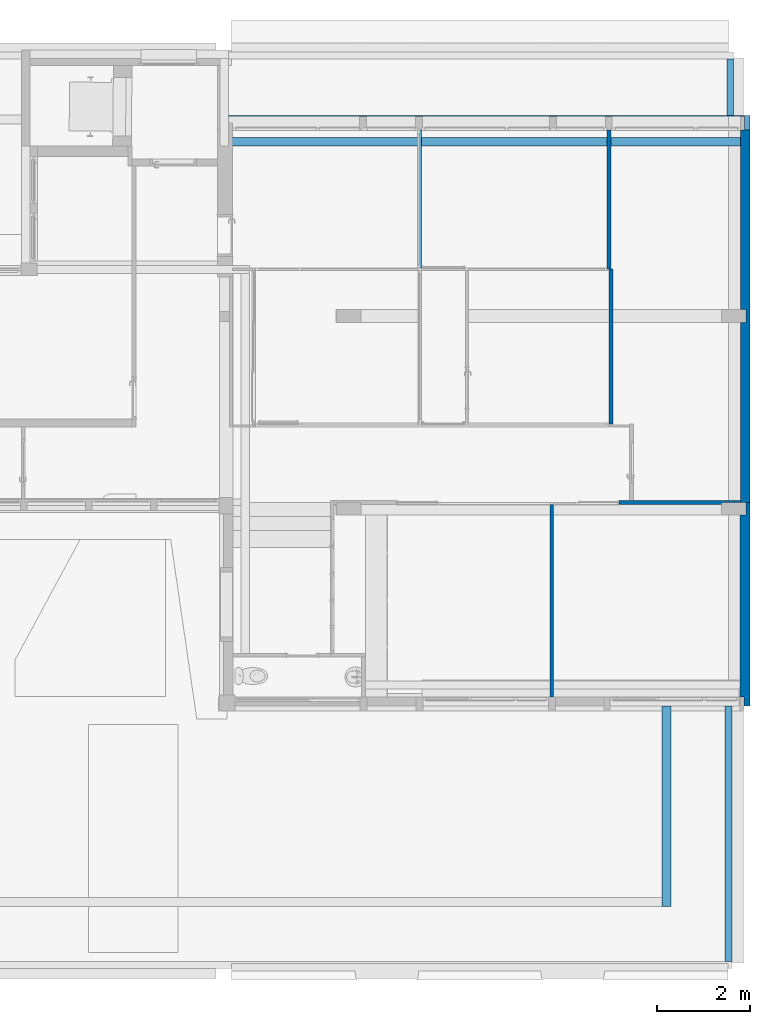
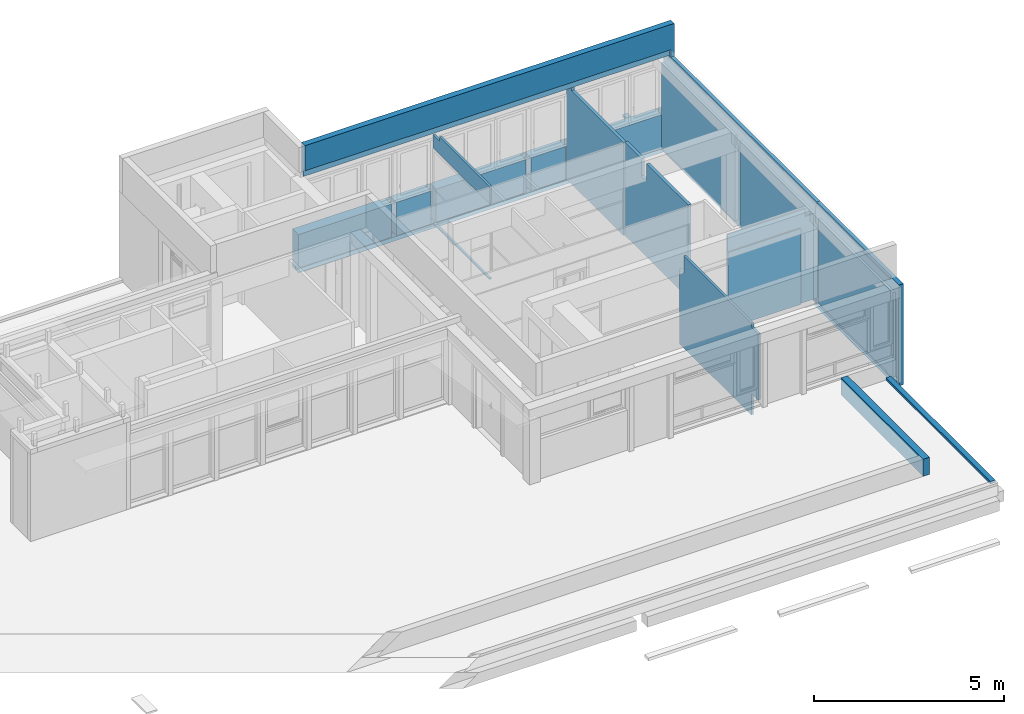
# One storey, part 36 of 49: 12 walls, 2 openings.
"""IFC4 building model written with IfcOpenShell, lengths in metres."""

from ifc_helpers import new_model, entity, si_unit, converted_unit, derived_unit, direction, frame, origin, place, context, subcontext, project, spatial, indexed_curve, outline, extrude, polygons, material, layer, layer_set, type_object, element, save


model = new_model("IFC4")

# Units and contexts
model_context = context("Model", 3, precision=1e-05, world=origin(), true_north=direction((6.12303176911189e-17, 1.0)))
body_context = subcontext(model_context, "Body", "Model", "MODEL_VIEW")
ifc_project = project(units=[si_unit("LENGTHUNIT", "METRE"), si_unit("AREAUNIT", "SQUARE_METRE"), si_unit("VOLUMEUNIT", "CUBIC_METRE"), converted_unit("PLANEANGLEUNIT", "DEGREE", entity("IfcRatioMeasure", 0.0174532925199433), si_unit("PLANEANGLEUNIT", "RADIAN"), dimensions=[0, 0, 0, 0, 0, 0, 0]), si_unit("MASSUNIT", "GRAM", prefix="KILO"), derived_unit("MASSDENSITYUNIT", [(si_unit("MASSUNIT", "GRAM", prefix="KILO"), 1), (si_unit("LENGTHUNIT", "METRE"), -3)]), derived_unit("MOMENTOFINERTIAUNIT", [(si_unit("LENGTHUNIT", "METRE"), 4)]), si_unit("TIMEUNIT", "SECOND"), si_unit("FREQUENCYUNIT", "HERTZ"), si_unit("THERMODYNAMICTEMPERATUREUNIT", "DEGREE_CELSIUS"), derived_unit("THERMALTRANSMITTANCEUNIT", [(si_unit("MASSUNIT", "GRAM", prefix="KILO"), 1), (si_unit("THERMODYNAMICTEMPERATUREUNIT", "KELVIN"), -1), (si_unit("TIMEUNIT", "SECOND"), -3)]), derived_unit("VOLUMETRICFLOWRATEUNIT", [(si_unit("LENGTHUNIT", "METRE"), 3), (si_unit("TIMEUNIT", "SECOND"), -1)]), si_unit("ELECTRICCURRENTUNIT", "AMPERE"), si_unit("ELECTRICVOLTAGEUNIT", "VOLT"), si_unit("POWERUNIT", "WATT"), si_unit("FORCEUNIT", "NEWTON", prefix="KILO"), si_unit("ILLUMINANCEUNIT", "LUX"), si_unit("LUMINOUSFLUXUNIT", "LUMEN"), si_unit("LUMINOUSINTENSITYUNIT", "CANDELA"), derived_unit("USERDEFINED", [(si_unit("MASSUNIT", "GRAM", prefix="KILO"), -1), (si_unit("LENGTHUNIT", "METRE"), -2), (si_unit("TIMEUNIT", "SECOND"), 3), (si_unit("LUMINOUSFLUXUNIT", "LUMEN"), 1)]), derived_unit("LINEARVELOCITYUNIT", [(si_unit("LENGTHUNIT", "METRE"), 1), (si_unit("TIMEUNIT", "SECOND"), -1)]), si_unit("PRESSUREUNIT", "PASCAL"), derived_unit("USERDEFINED", [(si_unit("LENGTHUNIT", "METRE"), -2), (si_unit("MASSUNIT", "GRAM", prefix="KILO"), 1), (si_unit("TIMEUNIT", "SECOND"), -2)]), derived_unit("LINEARFORCEUNIT", [(si_unit("MASSUNIT", "GRAM", prefix="KILO"), 1), (si_unit("LENGTHUNIT", "METRE"), 1), (si_unit("TIMEUNIT", "SECOND"), -2), (si_unit("LENGTHUNIT", "METRE"), -1)]), derived_unit("PLANARFORCEUNIT", [(si_unit("MASSUNIT", "GRAM", prefix="KILO"), 1), (si_unit("LENGTHUNIT", "METRE"), 1), (si_unit("TIMEUNIT", "SECOND"), -2), (si_unit("LENGTHUNIT", "METRE"), -2)])], contexts=[model_context])

# Site, building, storey
site_placement = place(None, origin())
site = spatial("IfcSite", under=ifc_project, at=site_placement, Name="Default", CompositionType="ELEMENT")
building_placement = place(site_placement, origin())
building = spatial("IfcBuilding", under=site, at=building_placement, Name="HOTEL CONSULAIRE BOULOGNE SUR MER", CompositionType="ELEMENT")
storey_placement = place(building_placement, frame((0.0, 0.0, 6.81974152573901)))
storey = spatial("IfcBuildingStorey", under=building, at=storey_placement, Name="Niveau 2", CompositionType="ELEMENT", Elevation=6.81974152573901)

# Wall, opening
ifc_material = material(Name="Mur par défaut", Category="Divers")
ifc_layer_1 = layer(ifc_material, 0.07, Name="Mur par défaut", Category="Divers")
ifc_layer_set_1 = layer_set([ifc_layer_1], Name="Mur de base:Générique - Int. 70 mm")
wall_type_1 = type_object("IfcWallType", Name="Mur de base:Générique - Int. 70 mm", PredefinedType="NOTDEFINED", material=ifc_layer_set_1)
wall_1_placement = place(storey_placement, frame((18.5326869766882, -23.8271007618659, 0.0), z_axis=(0.0, 0.0, 1.0), x_axis=(0.0, 1.0, 0.0)))
wall_1 = element("IfcWall", 1, at=wall_1_placement, inside=storey, type_object=wall_type_1, material=ifc_layer_set_1, Name="Mur de base:Générique - Int. 70 mm", ObjectType="Mur de base:Générique - Int. 70 mm", PredefinedType="NOTDEFINED", context=body_context, shape_type="Tessellation", body=[
    polygons([(4.13394496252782, -0.0349999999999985, 2.402), (3.91119095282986, -0.0349999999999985, 2.402), (3.91119095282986, -0.0349999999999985, 2.95700000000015), (0.344902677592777, -0.0349999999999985, 2.95700000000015), (0.344902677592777, -0.0349999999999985, 2.822), (0.0, -0.0349999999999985, 2.822), (0.0, -0.0349999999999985, 0.693999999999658), (0.36, -0.0349999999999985, 0.693999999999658), (0.36, -0.0349999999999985, 0.0), (4.13394496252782, -0.0349999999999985, 0.0), (3.91119095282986, 0.0350000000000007, 2.402), (4.13394496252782, 0.0350000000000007, 2.402), (4.13394496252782, 0.0350000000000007, 0.0), (0.36, 0.0350000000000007, 0.0), (0.36, 0.0350000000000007, 0.693999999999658), (0.0, 0.0350000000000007, 0.693999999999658), (0.0, 0.0350000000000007, 2.822), (0.344902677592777, 0.0350000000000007, 2.822), (0.344902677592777, 0.0350000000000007, 2.95700000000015), (3.91119095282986, 0.0350000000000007, 2.95700000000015)], [[[5, 6, 7, 8, 9, 10, 1, 2, 3, 4]], [[13, 14, 15, 16, 17, 18, 19, 20, 11, 12]], [[1, 12, 11, 2]], [[20, 19, 4, 3]], [[18, 17, 6, 5]], [[2, 11, 20, 3]], [[1, 10, 13, 12]], [[7, 6, 17, 16]], [[19, 18, 5, 4]], [[14, 9, 8, 15]], [[8, 7, 16, 15]], [[14, 13, 10, 9]]], closed=True),
])
opening_1_placement = place(wall_1_placement, origin())
element("IfcOpeningElement", 2, at=opening_1_placement, cuts=wall_1, Name="Mur de base:Générique - Int. 70 mm", ObjectType="Opening", PredefinedType="OPENING", context=body_context, shape_type="SweptSolid", body=[
    extrude(outline(indexed_curve([(-0.364499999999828, -0.0899999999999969), (0.364499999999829, -0.0899999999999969), (0.364499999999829, 0.0900000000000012), (-0.364499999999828, 0.0900000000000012), (-0.364499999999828, -0.0899999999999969)], self_intersect=False)), frame((0.0899999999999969, 0.0350000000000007, 0.32949999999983), z_axis=(0.0, -1.0, 0.0), x_axis=(0.0, 0.0, -1.0)), (0.0, 0.0, 1.0), 0.07),
])

ifc_layer_2 = layer(ifc_material, 0.07, Name="Mur par défaut", Category="Divers")
ifc_layer_set_2 = layer_set([ifc_layer_2], Name="Mur de base:Int. Plâtre 70 mm")
wall_type_2 = type_object("IfcWallType", Name="Mur de base:Int. Plâtre 70 mm", PredefinedType="NOTDEFINED", material=ifc_layer_set_2)
wall_2_placement = place(storey_placement, frame((15.696075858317, -14.6014237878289, -0.0350000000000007), z_axis=(0.0, 0.0, 1.0), x_axis=(0.0, 1.0, 0.0)))
wall_2 = element("IfcWall", 3, at=wall_2_placement, inside=storey, type_object=wall_type_2, material=ifc_layer_set_2, Name="Mur de base:Int. Plâtre 70 mm", ObjectType="Mur de base:Int. Plâtre 70 mm", PredefinedType="NOTDEFINED", context=body_context, shape_type="Tessellation", body=[
    polygons([(0.0, -0.0349999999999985, 1.08286712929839e-15), (2.96500000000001, -0.0349999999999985, 1.08286712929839e-15), (2.96500000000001, -0.0349999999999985, 0.0350000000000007), (0.0, -0.0349999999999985, 0.0350000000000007), (2.96500000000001, 0.0350000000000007, 1.08286712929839e-15), (0.0, 0.0350000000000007, 1.08286712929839e-15), (0.0, 0.0350000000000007, 0.0350000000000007), (2.96500000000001, 0.0350000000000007, 0.0350000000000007)], [[[4, 1, 2, 3]], [[8, 5, 6, 7]], [[2, 1, 6, 5]], [[7, 6, 1, 4]], [[3, 8, 7, 4]], [[3, 2, 5, 8]]], closed=True),
    polygons([(2.96500000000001, 0.0350000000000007, 2.437), (0.0, 0.0350000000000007, 2.437), (0.0, 0.0350000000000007, 2.99200000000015), (2.63022570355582, 0.0350000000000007, 2.99200000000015), (2.63022570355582, 0.0350000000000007, 2.857), (2.96500000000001, 0.0350000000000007, 2.857), (2.96500000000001, -0.0349999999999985, 2.437), (2.96500000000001, -0.0349999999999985, 2.857), (0.0, -0.0349999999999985, 2.437), (2.63022570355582, -0.0349999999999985, 2.857), (2.63022570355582, -0.0349999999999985, 2.99200000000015), (0.0, -0.0349999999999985, 2.99200000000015)], [[[5, 6, 1, 2, 3, 4]], [[7, 1, 6, 8]], [[11, 10, 5, 4]], [[12, 9, 7, 8, 10, 11]], [[2, 9, 12, 3]], [[9, 2, 1, 7]], [[4, 3, 12, 11]], [[6, 5, 10, 8]]], closed=True),
])
opening_2_placement = place(wall_2_placement, frame((0.0, 0.1874, 0.035000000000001)))
element("IfcOpeningElement", 4, at=opening_2_placement, cuts=wall_2, Name="Mur de base:Int. Plâtre 70 mm", ObjectType="Opening", PredefinedType="OPENING", context=body_context, shape_type="SweptSolid", body=[
    extrude(outline(indexed_curve([(-1.201, -1.48250000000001), (1.201, -1.48250000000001), (1.201, 1.48250000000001), (-1.201, 1.48250000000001), (-1.201, -1.48250000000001)], self_intersect=False)), frame((1.48250000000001, -0.374799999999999, 1.201), z_axis=(0.0, 1.0, 0.0), x_axis=(0.0, 0.0, 1.0)), (0.0, 0.0, 1.0), 0.374799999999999),
])

# Walls
ifc_layer_3 = layer(ifc_material, 0.18, Name="Mur par défaut", Category="Divers")
ifc_layer_set_3 = layer_set([ifc_layer_3], Name="Mur de base:Générique - Int.180")
wall_type_3 = type_object("IfcWallType", Name="Mur de base:Générique - Int.180", PredefinedType="NOTDEFINED", material=ifc_layer_set_3)
wall_3_placement = place(storey_placement, frame((11.5809585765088, -11.8811980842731, 3.052)))
element("IfcWall", 5, at=wall_3_placement, inside=storey, type_object=wall_type_3, material=ifc_layer_set_3, Name="Mur de base:Générique - Int.180", ObjectType="Mur de base:Générique - Int.180", PredefinedType="NOTDEFINED", context=body_context, shape_type="Tessellation", body=[
    polygons([(11.2169773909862, -0.0900000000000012, 0.0), (11.2169773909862, -0.0900000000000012, 1.04540452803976), (2.05724346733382e-16, -0.0900000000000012, 1.04540452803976), (2.05724346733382e-16, -0.0900000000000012, 0.23500000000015), (11.1169773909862, -0.0900000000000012, 0.23500000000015), (11.1169773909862, -0.0900000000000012, 0.0), (11.2169773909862, 0.089999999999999, 0.0), (-2.85831539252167e-16, 0.089999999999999, 0.0), (-2.85831539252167e-16, 0.089999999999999, 1.04540452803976), (11.2169773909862, 0.089999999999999, 1.04540452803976), (11.1169773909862, -2.16573425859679e-15, 0.0), (11.077679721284, -2.16573425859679e-15, 0.0), (-4.00535962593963e-17, 0.0, 0.0), (-4.00535962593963e-17, 0.0, 0.100000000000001), (-4.00535962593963e-17, 0.0, 0.23500000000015), (11.1169773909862, -2.16573425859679e-15, 0.23500000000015)], [[[3, 4, 5, 6, 1, 2]], [[12, 11, 16, 15, 14, 13]], [[10, 7, 8, 9]], [[11, 12, 13, 8, 7, 1, 6]], [[16, 5, 4, 15]], [[2, 1, 7, 10]], [[3, 2, 10, 9]], [[15, 4, 3, 9, 8, 13, 14]], [[11, 6, 5, 16]]], closed=True),
])
ifc_layer_4 = layer(ifc_material, 0.09, Name="Mur par défaut", Category="Divers")
ifc_layer_set_4 = layer_set([ifc_layer_4], Name="Mur de base:Générique - Int. 90")
wall_type_4 = type_object("IfcWallType", Name="Mur de base:Générique - Int. 90", PredefinedType="NOTDEFINED", material=ifc_layer_set_4)
wall_4_placement = place(storey_placement, frame((19.767821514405, -11.6364237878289, -0.0349999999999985), z_axis=(0.0, 0.0, 1.0), x_axis=(0.0, -1.0, 0.0)))
element("IfcWall", 6, at=wall_4_placement, inside=storey, type_object=wall_type_4, material=ifc_layer_set_4, Name="Mur de base:Générique - Int. 90", ObjectType="Mur de base:Générique - Int. 90", PredefinedType="NOTDEFINED", context=body_context, shape_type="Tessellation", body=[
    polygons([(0.0, -0.0450000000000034, -1.08286712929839e-15), (2.965, -0.0450000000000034, -1.08286712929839e-15), (2.99, -0.0450000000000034, -1.08286712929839e-15), (2.99, -0.0450000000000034, 0.0349999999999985), (2.99, -0.0450000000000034, 2.437), (2.99, -0.0450000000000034, 2.99200000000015), (2.965, -0.0450000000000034, 2.99200000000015), (0.244774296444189, -0.045000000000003, 2.99200000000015), (0.244774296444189, -0.045000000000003, 3.087), (0.0, -0.0450000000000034, 3.087), (2.99, 0.0449999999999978, -1.08286712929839e-15), (0.0, 0.0449999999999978, -1.08286712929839e-15), (0.0, 0.0449999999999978, 3.087), (0.244774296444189, 0.0449999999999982, 3.087), (0.244774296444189, 0.0449999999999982, 2.99200000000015), (2.99, 0.0449999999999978, 2.99200000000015), (2.99, -0.00574565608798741, -1.08286712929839e-15), (2.99, -0.00574565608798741, 2.99200000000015)], [[[1, 2, 3, 4, 5, 6, 7, 8, 9, 10]], [[11, 12, 13, 14, 15, 16]], [[2, 1, 12, 11, 17, 3]], [[10, 9, 14, 13]], [[7, 6, 18, 16, 15, 8]], [[12, 1, 10, 13]], [[4, 3, 17, 11, 16, 18, 6, 5]], [[9, 8, 15, 14]]], closed=True),
])
wall_5_placement = place(storey_placement, frame((19.807075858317, -17.9553078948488, -0.0349999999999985), z_axis=(0.0, 0.0, 1.0), x_axis=(0.0, 1.0, 0.0)))
element("IfcWall", 7, at=wall_5_placement, inside=storey, type_object=wall_type_4, material=ifc_layer_set_4, Name="Mur de base:Générique - Int. 90", ObjectType="Mur de base:Générique - Int. 90", PredefinedType="NOTDEFINED", context=body_context, shape_type="Tessellation", body=[
    polygons([(2.45739808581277, -0.0450000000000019, 2.99200000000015), (3.32888410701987, -0.0450000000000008, 2.99200000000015), (3.32888410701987, 0.0450000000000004, 2.99200000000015), (3.30388410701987, 0.0450000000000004, 2.99200000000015), (2.45739808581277, 0.0449999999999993, 2.99200000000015), (0.0, -0.0450000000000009, -1.08286712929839e-15), (3.32888410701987, -0.0450000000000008, -1.08286712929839e-15), (2.45739808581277, -0.0450000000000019, 2.437), (2.18739808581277, -0.0450000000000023, 2.437), (2.18739808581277, -0.0450000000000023, 2.99200000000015), (0.0, -0.0450000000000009, 2.99200000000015), (3.32888410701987, 0.0450000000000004, -1.08286712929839e-15), (3.30388410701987, 0.0450000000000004, -1.08286712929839e-15), (0.0, 0.0450000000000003, -1.08286712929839e-15), (0.0, 0.0450000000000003, 2.99200000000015), (2.18739808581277, 0.0449999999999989, 2.99200000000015), (2.18739808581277, 0.0449999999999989, 2.437), (2.45739808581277, 0.0449999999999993, 2.437), (3.32888410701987, -0.00574565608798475, -1.08286712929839e-15)], [[[4, 5, 1, 2, 3]], [[8, 18, 17, 9]], [[16, 15, 11, 10]], [[6, 7, 2, 1, 8, 9, 10, 11]], [[18, 5, 4, 3, 12, 13, 14, 15, 16, 17]], [[19, 7, 6, 14, 13, 12]], [[6, 11, 15, 14]], [[1, 5, 18, 8]], [[9, 17, 16, 10]], [[2, 7, 19, 12, 3]]], closed=True),
])
ifc_layer_5 = layer(ifc_material, 0.32, Name="Mur par défaut", Category="Divers")
ifc_layer_set_5 = layer_set([ifc_layer_5], Name="Mur de base:Générique - Ext.320 mm")
wall_type_5 = type_object("IfcWallType", Name="Mur de base:Générique - Ext.320 mm", PredefinedType="NOTDEFINED", material=ifc_layer_set_5)
wall_6_placement = place(storey_placement, frame((11.5809585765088, -11.4764237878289, -0.187999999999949)))
element("IfcWall", 8, at=wall_6_placement, inside=storey, type_object=wall_type_5, material=ifc_layer_set_5, Name="Mur de base:Générique - Ext.320 mm", ObjectType="Mur de base:Générique - Ext.320 mm", PredefinedType="NOTDEFINED", context=body_context, shape_type="Tessellation", body=[
    polygons([(2.8184756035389, -0.16, 1.22371275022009), (0.0899999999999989, -0.16, 1.22371275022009), (-1.72323157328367e-16, -0.16, 1.22371275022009), (-1.72323157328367e-16, -0.16, 0.152999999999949), (2.8184756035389, -0.16, 0.152999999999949), (8.2544756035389, -0.16, 1.22371275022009), (8.2544756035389, -0.16, 0.152999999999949), (11.0169773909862, -0.16, 0.152999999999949), (11.0169773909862, -0.16, 1.22371275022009), (6.9044756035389, -0.16, 0.152999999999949), (6.9044756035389, -0.16, 1.22371275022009), (4.1684756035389, -0.16, 1.22371275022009), (4.1684756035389, -0.16, 0.152999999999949), (7.0544756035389, 0.0, 0.152999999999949), (8.10447560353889, 0.0, 0.152999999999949), (8.10447560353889, -0.16, 0.152999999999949), (7.0544756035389, -0.16, 0.152999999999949), (4.1684756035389, 0.0, 0.152999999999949), (6.9044756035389, 0.0, 0.152999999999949), (8.25447560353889, 0.0, 0.152999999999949), (11.0169773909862, 0.0, 0.152999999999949), (2.9684756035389, 0.0, 0.152999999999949), (4.0184756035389, 0.0, 0.152999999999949), (4.0184756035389, -0.16, 0.152999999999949), (2.9684756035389, -0.16, 0.152999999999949), (4.0184756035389, -0.16, 1.22371275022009), (2.9684756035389, -0.16, 1.22371275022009), (8.10447560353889, -0.16, 1.22371275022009), (7.0544756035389, -0.16, 1.22371275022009), (-1.72323157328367e-16, -0.16, 0.0), (11.2169773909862, -0.16, 0.0), (11.2169773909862, -0.16, 0.00299999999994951), (11.2169773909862, -0.16, 1.22371275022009), (11.1049773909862, -0.16, 1.22371275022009), (11.1049773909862, -0.16, 0.152999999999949), (11.0869773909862, -0.16, 0.152999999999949), (11.0869773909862, -0.16, 0.00299999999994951), (-1.72323157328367e-16, -0.16, 0.00299999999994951), (11.2169773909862, 0.16, 0.0), (-1.18005982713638e-15, 0.16, 0.0), (-1.18005982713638e-15, 0.16, 1.22371275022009), (11.2169773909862, 0.16, 1.22371275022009), (-6.76191492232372e-16, 0.0, 1.22371275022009), (2.8184756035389, 0.139999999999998, 1.22371275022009), (2.9684756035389, 0.139999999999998, 1.22371275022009), (4.0184756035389, 0.139999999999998, 1.22371275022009), (4.1684756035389, 0.139999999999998, 1.22371275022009), (6.9044756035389, 0.139999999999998, 1.22371275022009), (7.0544756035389, 0.139999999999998, 1.22371275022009), (8.10447560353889, 0.139999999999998, 1.22371275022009), (8.25447560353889, 0.139999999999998, 1.22371275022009), (11.0169773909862, 0.139999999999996, 1.22371275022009), (11.1049773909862, 0.139999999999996, 1.22371275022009), (8.10447560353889, 0.139999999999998, 0.152999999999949), (8.25447560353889, 0.139999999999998, 0.152999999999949), (6.9044756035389, 0.139999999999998, 0.152999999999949), (7.0544756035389, 0.139999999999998, 0.152999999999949), (4.0184756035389, 0.139999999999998, 0.152999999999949), (4.1684756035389, 0.139999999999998, 0.152999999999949), (2.8184756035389, 0.139999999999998, 0.152999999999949), (2.9684756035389, 0.139999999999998, 0.152999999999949), (2.8184756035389, 0.0, 0.152999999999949), (11.0169773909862, 0.139999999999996, 0.152999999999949), (11.1049773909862, 0.139999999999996, 0.152999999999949), (11.0869773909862, 0.0, 0.00299999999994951), (-6.76191492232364e-16, -2.16573425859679e-15, 0.00299999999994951), (-6.76191492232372e-16, 0.0, 0.152999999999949), (11.0869773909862, 0.0, 0.152999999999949)], [[[3, 4, 5, 1, 2]], [[6, 7, 8, 9]], [[12, 13, 10, 11]], [[27, 25, 24, 26]], [[29, 17, 16, 28]], [[38, 30, 31, 32, 33, 34, 35, 36, 37]], [[54, 55, 51, 50]], [[57, 49, 48, 56]], [[58, 59, 47, 46]], [[60, 61, 45, 44]], [[64, 53, 52, 63]], [[18, 23, 22, 62, 67, 66, 65, 68, 21, 20, 15, 14, 19]], [[16, 17, 14, 15]], [[13, 18, 19, 10]], [[7, 20, 21, 8]], [[25, 22, 23, 24]], [[31, 30, 40, 39]], [[4, 67, 62, 5]], [[42, 39, 40, 41]], [[6, 9, 52, 53, 34, 33, 42, 41, 43, 3, 2, 1, 44, 45, 27, 26, 46, 47, 12, 11, 48, 49, 29, 28, 50, 51]], [[65, 66, 38, 37]], [[22, 61, 60, 62]], [[59, 58, 23, 18]], [[57, 56, 19, 14]], [[20, 55, 54, 15]], [[21, 68, 36, 35, 64, 63]], [[20, 7, 6, 51, 55]], [[14, 17, 29, 49, 57]], [[18, 13, 12, 47, 59]], [[22, 25, 27, 45, 61]], [[64, 35, 34, 53]], [[36, 68, 65, 37]], [[67, 4, 3, 43, 41, 40, 30, 38, 66]], [[15, 54, 50, 28, 16]], [[19, 56, 48, 11, 10]], [[23, 58, 46, 26, 24]], [[62, 60, 44, 1, 5]], [[21, 63, 52, 9, 8]], [[32, 31, 39, 42, 33]]], closed=True),
])
ifc_layer_6 = layer(ifc_material, 0.08, Name="Mur par défaut", Category="Divers")
ifc_layer_set_6 = layer_set([ifc_layer_6], Name="Mur de base:Générique - Int. 80")
wall_type_6 = type_object("IfcWallType", Name="Mur de base:Générique - Int. 80", PredefinedType="NOTDEFINED", material=ifc_layer_set_6)
wall_7_placement = place(storey_placement, frame((22.597935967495, -19.6431557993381, -0.0349999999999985), z_axis=(0.0, 0.0, 1.0), x_axis=(-1.0, 0.0, 0.0)))
element("IfcWall", 9, at=wall_7_placement, inside=storey, type_object=wall_type_6, material=ifc_layer_set_6, Name="Mur de base:Générique - Int. 80", ObjectType="Mur de base:Générique - Int. 80", PredefinedType="NOTDEFINED", context=body_context, shape_type="Tessellation", body=[
    polygons([(-1.89596120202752e-15, -0.0399999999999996, -1.08286712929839e-15), (2.30957911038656, -0.0399999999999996, -1.08286712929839e-15), (2.38957911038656, -0.0399999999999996, -1.08286712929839e-15), (2.62157911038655, -0.0399999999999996, -1.08286712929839e-15), (2.62157911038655, -0.0399999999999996, 2.99200000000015), (2.38957911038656, -0.0399999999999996, 2.99200000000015), (2.30957911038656, -0.0399999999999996, 2.99200000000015), (0.259297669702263, -0.0399999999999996, 2.99200000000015), (0.259297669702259, -0.0399999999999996, 2.747), (-1.89596120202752e-15, -0.0399999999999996, 2.747), (2.62157911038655, 0.0399999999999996, 2.437), (2.62157911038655, 0.0399999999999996, -1.08286712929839e-15), (0.412000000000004, 0.0399999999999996, -1.08286712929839e-15), (0.412000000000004, 0.0399999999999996, 0.0349999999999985), (0.412000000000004, 0.0399999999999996, 2.437), (-2.00588959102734e-15, -4.33146851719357e-15, -1.08286712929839e-15), (0.0100000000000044, 4.33146851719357e-15, -1.08286712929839e-15), (0.0100000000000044, 0.0027540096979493, -1.08286712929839e-15), (0.412000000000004, 0.0027540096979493, -1.08286712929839e-15), (2.62157911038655, 0.00275400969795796, 2.437), (2.62157911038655, 0.00275400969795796, 2.99200000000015), (0.412, 0.00275400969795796, 2.437), (0.0100000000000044, 0.00275400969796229, 2.747), (0.259297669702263, 0.00275400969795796, 2.747), (0.259297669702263, 0.00275400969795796, 2.99200000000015), (-2.00588959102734e-15, -4.33146851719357e-15, 2.747), (0.0100000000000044, 4.33146851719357e-15, 2.747)], [[[1, 2, 3, 4, 5, 6, 7, 8, 9, 10]], [[11, 12, 13, 14, 15]], [[25, 21, 20, 22, 19, 18, 23, 24]], [[27, 17, 16, 26]], [[2, 1, 16, 17, 18, 19, 13, 12, 4, 3]], [[5, 4, 12, 11, 20, 21]], [[22, 20, 11, 15]], [[27, 26, 10, 9, 24, 23]], [[5, 21, 25, 8, 7, 6]], [[26, 16, 1, 10]], [[23, 18, 17, 27]], [[14, 13, 19, 22, 15]], [[24, 9, 8, 25]]], closed=True),
])
ifc_layer_7 = layer(ifc_material, 0.2, Name="Mur par défaut", Category="Divers")
ifc_layer_set_7 = layer_set([ifc_layer_7], Name="Mur de base:Générique - Ext. 200 mm")
wall_type_7 = type_object("IfcWallType", Name="Mur de base:Générique - Ext. 200 mm", PredefinedType="NOTDEFINED", material=ifc_layer_set_7)
wall_8_placement = place(storey_placement, frame((22.6979359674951, -11.6364237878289, -0.184999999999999), z_axis=(0.0, 0.0, 1.0), x_axis=(0.0, -1.0, 0.0)))
element("IfcWall", 10, at=wall_8_placement, inside=storey, type_object=wall_type_7, material=ifc_layer_set_7, Name="Mur de base:Générique - Ext. 200 mm", ObjectType="Mur de base:Générique - Ext. 200 mm", PredefinedType="NOTDEFINED", context=body_context, shape_type="Tessellation", body=[
    polygons([(4.1314860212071, -0.0999999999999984, 2.897), (4.13148602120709, -0.0999999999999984, 0.149999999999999), (7.96673201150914, -0.100000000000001, 0.149999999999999), (8.00673201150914, -0.100000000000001, 0.149999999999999), (8.00673201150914, -0.100000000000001, 2.897), (7.96673201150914, -0.100000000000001, 2.897), (8.00673201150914, -0.0392976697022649, 2.897), (4.1314860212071, -0.0392976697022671, 2.897), (4.13148602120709, -0.0300000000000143, 0.149999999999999), (8.00673201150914, -0.0300000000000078, 0.149999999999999), (3.86148602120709, -0.0999999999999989, 0.149999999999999), (3.8614860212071, -0.0999999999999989, 2.897), (0.0, -0.100000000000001, 2.897), (0.0, -0.100000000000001, 0.149999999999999), (8.00673201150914, 0.0999999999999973, 0.0), (0.0, 0.0999999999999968, 0.0), (0.0, 0.0999999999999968, 1.22071275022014), (0.0, 0.0999999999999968, 3.237), (8.00673201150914, 0.0999999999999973, 3.237), (8.00673201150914, -0.0300000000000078, 0.0), (0.0, -0.0300000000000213, 0.0), (0.0, -0.0392976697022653, 3.237), (0.244774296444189, -0.0392976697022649, 3.237), (0.244774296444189, 2.64021198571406e-15, 3.237), (8.00673201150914, -1.64186678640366e-15, 3.237), (8.00673201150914, -1.64186678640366e-15, 3.14200000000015), (8.00673201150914, -0.0392976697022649, 3.14200000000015), (0.0, -0.0300000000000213, 0.149999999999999), (0.0, -0.0392976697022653, 2.897), (4.13148602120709, 0.0179999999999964, 0.149999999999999), (3.86148602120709, 0.017999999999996, 0.149999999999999), (3.86148602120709, -0.0300000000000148, 0.149999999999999), (4.13148602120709, 0.0179999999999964, 2.587), (3.86148602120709, 0.017999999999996, 2.587), (4.13148602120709, -0.0392976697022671, 2.587), (3.8614860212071, -0.0392976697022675, 2.587), (3.8614860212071, -0.0392976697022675, 2.897), (0.244774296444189, -0.0392976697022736, 3.14200000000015), (0.244774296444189, 2.64021198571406e-15, 3.14200000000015)], [[[1, 2, 3, 4, 5, 6]], [[13, 14, 11, 12]], [[30, 33, 34, 31]], [[27, 38, 23, 22, 29, 37, 36, 35, 8, 7]], [[39, 26, 25, 24]], [[9, 32, 28, 21, 20, 10]], [[6, 5, 7, 8, 1]], [[24, 25, 19, 18, 22, 23]], [[31, 32, 9, 30]], [[12, 37, 29, 13]], [[38, 27, 26, 39]], [[3, 2, 9, 10, 4]], [[20, 21, 16, 15]], [[33, 35, 36, 34]], [[11, 14, 28, 32]], [[19, 15, 16, 17, 18]], [[7, 5, 4, 10, 20, 15, 19, 25, 26, 27]], [[36, 37, 12, 11, 32, 31, 34]], [[23, 38, 39, 24]], [[29, 22, 18, 17, 16, 21, 28, 14, 13]], [[9, 2, 1, 8, 35, 33, 30]]], closed=True),
])
wall_9_placement = place(storey_placement, frame((21.002875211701, -24.0271007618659, 0.142000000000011), z_axis=(0.0, 0.0, 1.0), x_axis=(0.0, -1.0, 0.0)))
element("IfcWall", 11, at=wall_9_placement, inside=storey, type_object=wall_type_7, material=ifc_layer_set_7, Name="Mur de base:Générique - Ext. 200 mm", ObjectType="Mur de base:Générique - Ext. 200 mm", PredefinedType="NOTDEFINED", context=body_context, shape_type="Tessellation", body=[
    polygons([(4.31074554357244, -0.100000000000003, 0.546999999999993), (4.11074554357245, -0.100000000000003, 0.546999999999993), (0.0, -0.100000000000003, 0.546999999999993), (0.0, -0.100000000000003, 1.08286712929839e-15), (4.11074554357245, -0.100000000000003, 1.08286712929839e-15), (4.31074554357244, -0.100000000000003, 1.08286712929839e-15), (0.0, 0.0999999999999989, 0.546999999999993), (4.31074554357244, 0.0999999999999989, 0.546999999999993), (4.31074554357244, 0.0999999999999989, 1.08286712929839e-15), (0.0, 0.0999999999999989, 1.08286712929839e-15)], [[[3, 4, 5, 6, 1, 2]], [[8, 9, 10, 7]], [[2, 1, 8, 7, 3]], [[7, 10, 4, 3]], [[1, 6, 9, 8]], [[10, 9, 6, 5, 4]]], closed=True),
])
ifc_layer_8 = layer(ifc_material, 0.21, Name="Mur par défaut", Category="Divers")
ifc_layer_set_8 = layer_set([ifc_layer_8], Name="Mur de base:Générique - Ext.210")
wall_type_8 = type_object("IfcWallType", Name="Mur de base:Générique - Ext.210", PredefinedType="NOTDEFINED", material=ifc_layer_set_8)
wall_10_placement = place(storey_placement, frame((22.692935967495, -19.6431557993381, -0.187999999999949), z_axis=(0.0, 0.0, 1.0), x_axis=(0.0, -1.0, 0.0)))
element("IfcWall", 12, at=wall_10_placement, inside=storey, type_object=wall_type_8, material=ifc_layer_set_8, Name="Mur de base:Générique - Ext.210", ObjectType="Mur de base:Générique - Ext.210", PredefinedType="NOTDEFINED", context=body_context, shape_type="Tessellation", body=[
    polygons([(4.38394496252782, -0.104999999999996, 0.187999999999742), (4.18394496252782, -0.104999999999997, 0.187999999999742), (4.18394496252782, -0.104999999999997, 2.89999999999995), (0.272754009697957, -0.104999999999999, 2.89999999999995), (0.272754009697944, -0.104999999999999, 0.187999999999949), (3.82394496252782, -0.104999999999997, 0.187999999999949), (3.82394496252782, -0.104999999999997, 0.152999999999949), (4.18394496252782, -0.104999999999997, 0.152999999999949), (4.38394496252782, -0.104999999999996, 0.152999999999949), (0.00275400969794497, -0.104999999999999, 0.152999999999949), (0.00275400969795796, -0.104999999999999, 2.89999999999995), (0.0, -0.104999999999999, 2.89999999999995), (0.0, -0.104999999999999, 0.152999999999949), (4.18394496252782, -0.034297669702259, 2.89999999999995), (0.272754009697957, -0.0342976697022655, 2.89999999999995), (3.82394496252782, -0.0249999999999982, 0.152999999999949), (4.38394496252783, -0.0249999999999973, 0.152999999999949), (0.0, -0.104999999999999, 0.0), (4.38394496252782, -0.104999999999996, 0.0), (4.38394496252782, -0.104999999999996, 0.00299999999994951), (0.0, -0.104999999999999, 0.00299999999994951), (4.38394496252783, 0.105000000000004, 0.0), (0.0, 0.105, 0.0), (0.0, 0.105, 0.00299999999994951), (0.0, 0.105, 3.23999999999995), (4.38394496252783, 0.105000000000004, 3.23999999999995), (0.0, 0.00500000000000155, 3.23999999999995), (3.92904228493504, 0.00499999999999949, 3.23999999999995), (3.92904228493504, -0.0342976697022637, 3.23999999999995), (4.38394496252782, -0.0342976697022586, 3.23999999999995), (0.0, -0.0250000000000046, 0.00299999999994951), (0.0, -0.0250000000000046, 0.152999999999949), (0.0, -0.0949999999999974, 0.152999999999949), (0.0, -0.0949999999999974, 2.89999999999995), (0.0, -0.0342976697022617, 2.89999999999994), (0.0, -0.0342976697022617, 3.1450000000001), (0.0, 0.00500000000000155, 3.1450000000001), (4.38394496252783, -0.034297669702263, 2.89999999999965), (4.38394496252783, -0.0249999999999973, 2.89999999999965), (4.38394496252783, -0.0249999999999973, 0.187999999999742), (4.38394496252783, -0.0249999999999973, 0.00299999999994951), (0.272754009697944, 0.0229999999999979, 0.152999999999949), (0.00275400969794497, 0.0229999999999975, 0.152999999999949), (0.00275400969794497, -0.0250000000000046, 0.152999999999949), (0.0399999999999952, -0.0250000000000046, 0.152999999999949), (0.272754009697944, -0.0250000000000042, 0.152999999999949), (0.272754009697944, 0.0229999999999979, 2.58999999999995), (0.00275400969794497, 0.0229999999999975, 2.58999999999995), (0.272754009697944, -0.0342976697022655, 2.58999999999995), (0.00275400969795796, -0.034297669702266, 2.58999999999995), (4.18394496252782, -0.0249999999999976, 2.89999999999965), (4.18394496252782, -0.0249999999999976, 0.187999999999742), (0.00275400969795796, -0.034297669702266, 2.89999999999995), (0.272754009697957, -0.0250000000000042, 0.187999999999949), (3.92904228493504, -0.0342976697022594, 3.1450000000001), (3.82394496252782, -0.0249999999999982, 0.187999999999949), (3.92904228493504, 0.00499999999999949, 3.1450000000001)], [[[4, 5, 6, 7, 8, 9, 1, 2, 3]], [[12, 13, 10, 11]], [[21, 18, 19, 20]], [[42, 47, 48, 43]], [[52, 40, 39, 51]], [[30, 29, 55, 36, 35, 53, 50, 49, 15, 14, 38]], [[46, 45, 44, 32, 31, 41, 17, 16, 56, 54]], [[27, 37, 57, 28]], [[14, 15, 4, 3]], [[28, 29, 30, 26, 25, 27]], [[45, 46, 42, 43, 44]], [[40, 52, 2, 1]], [[11, 53, 35, 34, 12]], [[21, 20, 41, 31]], [[36, 55, 57, 37]], [[8, 7, 16, 17, 9]], [[19, 18, 23, 22]], [[47, 49, 50, 48]], [[14, 51, 39, 38]], [[44, 10, 13, 33, 32]], [[56, 6, 5, 54]], [[26, 22, 23, 24, 25]], [[33, 13, 12, 34, 35, 36, 37, 27, 25, 24, 23, 18, 21, 31, 32]], [[54, 5, 4, 15, 49, 47, 42, 46]], [[6, 56, 16, 7]], [[28, 57, 55, 29]], [[1, 9, 17, 41, 20, 19, 22, 26, 30, 38, 39, 40]], [[2, 52, 51, 14, 3]], [[50, 53, 11, 10, 44, 43, 48]]], closed=True),
])
ifc_layer_9 = layer(ifc_material, 0.15, Name="Mur par défaut", Category="Divers")
ifc_layer_set_9 = layer_set([ifc_layer_9], Name="Mur de base:Générique - Ext. 150 mm")
wall_type_9 = type_object("IfcWallType", Name="Mur de base:Générique - Ext. 150 mm", PredefinedType="NOTDEFINED", material=ifc_layer_set_9)
wall_11_placement = place(storey_placement, frame((22.338620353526, -29.5248025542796, 0.142000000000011), z_axis=(0.0, 0.0, 1.0), x_axis=(0.0, 1.0, 0.0)))
element("IfcWall", 13, at=wall_11_placement, inside=storey, type_object=wall_type_9, material=ifc_layer_set_9, Name="Mur de base:Générique - Ext. 150 mm", ObjectType="Mur de base:Générique - Ext. 150 mm", PredefinedType="NOTDEFINED", context=body_context, shape_type="Tessellation", body=[
    polygons([(5.49770179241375, -0.0750000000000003, 0.0750000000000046), (0.0, -0.0750000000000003, 0.0750000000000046), (0.0, -0.0750000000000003, 1.08286712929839e-15), (5.49770179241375, -0.0750000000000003, 1.08286712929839e-15), (0.0, 0.0750000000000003, 0.0750000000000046), (5.49770179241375, 0.0750000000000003, 0.0750000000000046), (5.49770179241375, 0.0750000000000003, 1.08286712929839e-15), (0.0, 0.0750000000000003, 1.08286712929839e-15)], [[[2, 3, 4, 1]], [[6, 7, 8, 5]], [[2, 1, 6, 5]], [[8, 3, 2, 5]], [[4, 7, 6, 1]], [[3, 8, 7, 4]]], closed=True),
])
wall_12_placement = place(storey_placement, frame((22.3746382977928, -11.3164237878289, 0.142), z_axis=(0.0, 0.0, 1.0), x_axis=(0.0, 1.0, 0.0)))
element("IfcWall", 14, at=wall_12_placement, inside=storey, type_object=wall_type_9, material=ifc_layer_set_9, Name="Mur de base:Générique - Ext. 150 mm", ObjectType="Mur de base:Générique - Ext. 150 mm", PredefinedType="NOTDEFINED", context=body_context, shape_type="Tessellation", body=[
    polygons([(1.21179143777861, -0.0749999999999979, 0.0750000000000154), (0.0, -0.0749999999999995, 0.0750000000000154), (0.0, -0.0749999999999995, 0.0), (1.21179143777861, -0.0749999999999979, 0.0), (2.16573425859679e-15, 0.075000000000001, 0.0750000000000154), (1.21179143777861, 0.0750000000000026, 0.0750000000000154), (1.21179143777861, 0.0750000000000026, 0.0), (2.16573425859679e-15, 0.075000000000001, 0.0)], [[[2, 3, 4, 1]], [[6, 7, 8, 5]], [[2, 1, 6, 5]], [[8, 3, 2, 5]], [[4, 7, 6, 1]], [[4, 3, 8, 7]]], closed=True),
])

save(model, "model.ifc")
